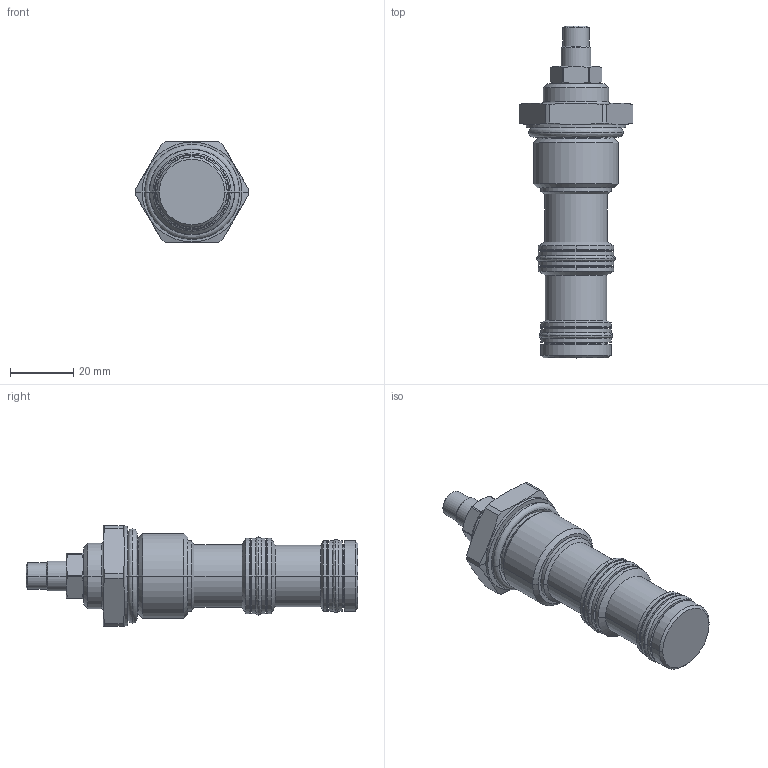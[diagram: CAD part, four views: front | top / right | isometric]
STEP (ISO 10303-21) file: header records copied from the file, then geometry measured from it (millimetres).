
FILE_DESCRIPTION((''),'2;1');
FILE_NAME('FR12-33A','2009-02-03T',('jcs'),(''),'PRO/ENGINEER BY PARAMETRIC TECHNOLOGY CORPORATION, 2008010','PRO/ENGINEER BY PARAMETRIC TECHNOLOGY CORPORATION, 2008010','');
FILE_SCHEMA(('CONFIG_CONTROL_DESIGN'));
Length unit declared in the file: inch
Products named in the file (1): FR12-33A
Bounding box: 35.81 x 104.66 x 31.75 mm (x, y, z)
Volume: 39408.3 mm3; surface area: 11547.9 mm2
Topology: 4 solids, 4 shells, 197 faces, 450 edges, 267 vertices
Faces by surface type: cylinder 60, cone 46, plane 45, revolution 24, torus 22
Entity records: 6248 total; most frequent: CARTESIAN_POINT 1738, DIRECTION 982, ORIENTED_EDGE 896, EDGE_CURVE 448, AXIS2_PLACEMENT_3D 407, VERTEX_POINT 267, CIRCLE 234, EDGE_LOOP 211
